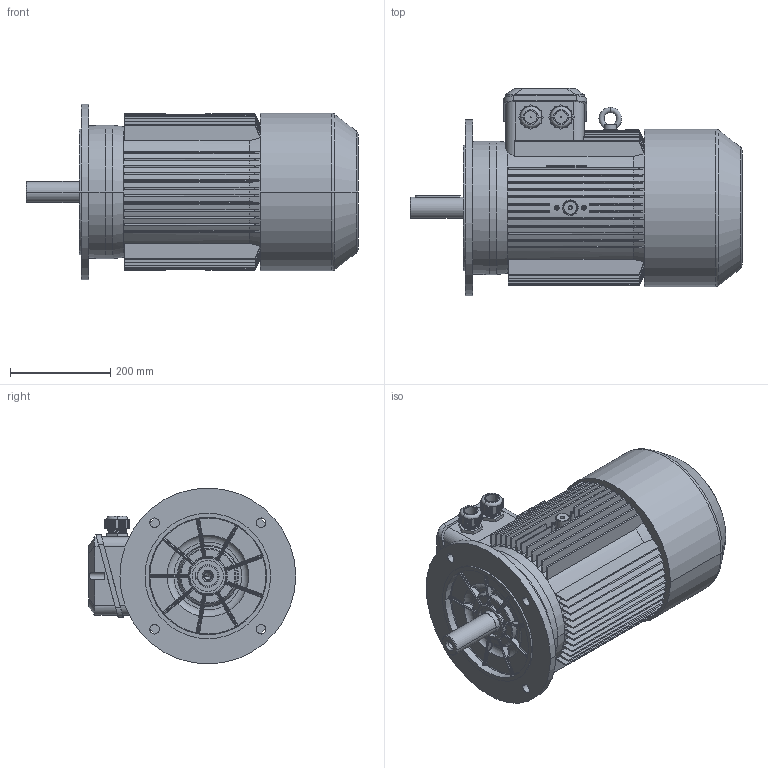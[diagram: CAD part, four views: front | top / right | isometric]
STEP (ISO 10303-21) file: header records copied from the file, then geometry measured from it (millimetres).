
FILE_DESCRIPTION (( 'STEP AP214' ), '1' );
FILE_NAME ('MAP160L4A IM3041 A350 FF300.STEP', '2021-01-15T10:48:19', ( '' ), ( '' ), 'SwSTEP 2.0', 'SolidWorks 2018', '' );
FILE_SCHEMA (( 'AUTOMOTIVE_DESIGN' ));
Length unit declared in the file: millimetre
Products named in the file (1): MAP160L4A IM3041 A350 FF300
Bounding box: 661 x 413 x 350 mm (x, y, z)
Volume: 37212184 mm3; surface area: 1456949 mm2
Topology: 3 solids, 8 shells, 1688 faces, 4490 edges, 2836 vertices
Faces by surface type: plane 985, cylinder 290, bspline 156, cone 94, torus 93, sphere 70
Entity records: 69405 total; most frequent: CARTESIAN_POINT 28936, ORIENTED_EDGE 8904, DIRECTION 7773, EDGE_CURVE 4452, VERTEX_POINT 2836, LINE 2727, VECTOR 2727, AXIS2_PLACEMENT_3D 2523
